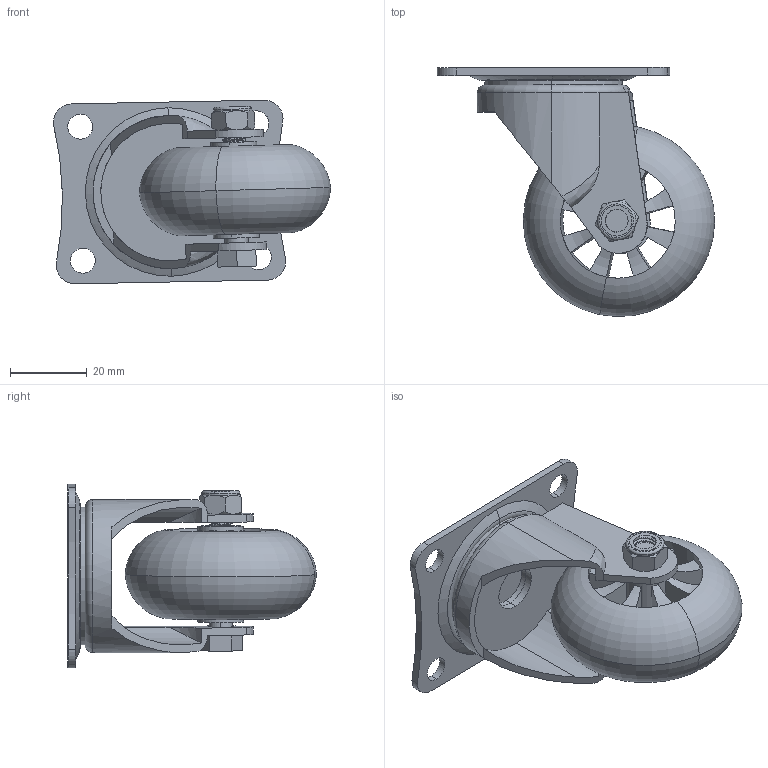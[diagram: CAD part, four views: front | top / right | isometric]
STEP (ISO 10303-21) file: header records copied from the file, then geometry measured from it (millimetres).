
FILE_DESCRIPTION (( 'STEP AP214' ), '1' );
FILE_NAME ('WLPU50-P.step', '2024-01-18T00:22:22', ( '' ), ( '' ), 'SwSTEP 2.0', 'SolidWorks 2022', '' );
FILE_SCHEMA (( 'AUTOMOTIVE_DESIGN' ));
Length unit declared in the file: millimetre
Products named in the file (6): M6NYLOC-WHITE; 60X47; M6X35; WLPU50; WLPU50-P; WL50-P
Assembly tree (5 placements, depth 2):
  WLPU50-P
    60X47
    WL50-P
    M6X35
    M6NYLOC-WHITE
    WLPU50
Bounding box: 72.42 x 65.02 x 47.95 mm (x, y, z)
Volume: 45604.2 mm3; surface area: 25741.1 mm2
Topology: 5 solids, 5 shells, 467 faces, 1261 edges, 825 vertices
Faces by surface type: plane 238, bspline 104, cylinder 83, torus 28, cone 14
Entity records: 22511 total; most frequent: CARTESIAN_POINT 11256, ORIENTED_EDGE 2522, DIRECTION 1891, EDGE_CURVE 1261, VERTEX_POINT 825, LINE 759, VECTOR 759, AXIS2_PLACEMENT_3D 566
